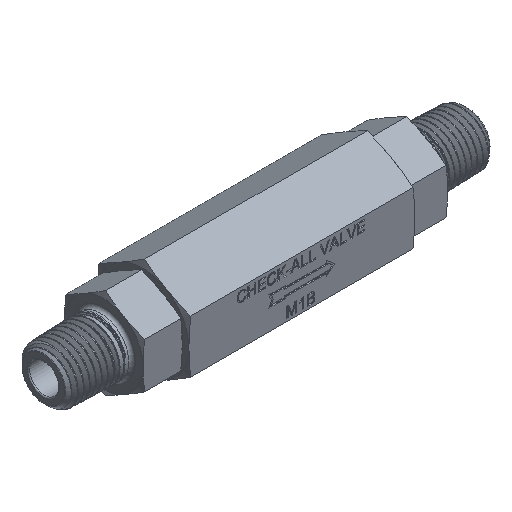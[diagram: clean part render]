
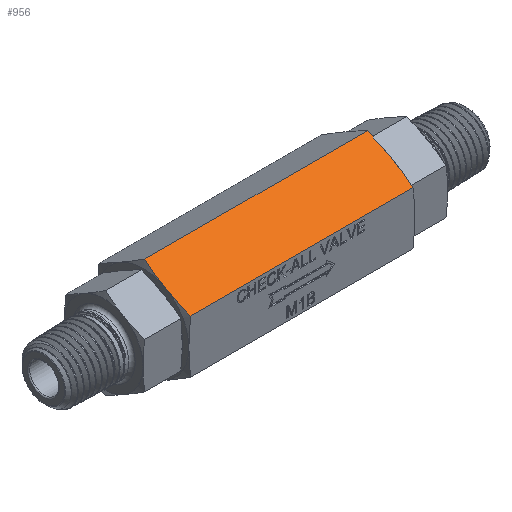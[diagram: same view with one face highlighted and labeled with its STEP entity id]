
A CAD part, isometric view. The second image highlights one B-rep face of the part: STEP entity #956.
In plain terms, the highlighted planar face has unit normal (0, -0.5, 0.866).
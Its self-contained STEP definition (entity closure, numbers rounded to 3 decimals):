
#956 = ADVANCED_FACE( '', ( #2276 ), #2277, .T. );
#2276 = FACE_OUTER_BOUND( '', #17430, .T. );
#2277 = PLANE( '', #17431 );
#17430 = EDGE_LOOP( '', ( #28704, #28705, #28706, #28707, #28708, #28709 ) );
#17431 = AXIS2_PLACEMENT_3D( '', #28710, #28711, #28712 );
#28704 = ORIENTED_EDGE( '', *, *, #31066, .T. );
#28705 = ORIENTED_EDGE( '', *, *, #30620, .T. );
#28706 = ORIENTED_EDGE( '', *, *, #31373, .T. );
#28707 = ORIENTED_EDGE( '', *, *, #31312, .T. );
#28708 = ORIENTED_EDGE( '', *, *, #31374, .F. );
#28709 = ORIENTED_EDGE( '', *, *, #31375, .T. );
#28710 = CARTESIAN_POINT( '', ( 23.801, 0., 12.832 ) );
#28711 = DIRECTION( '', ( 0., -0.5, 0.866 ) );
#28712 = DIRECTION( '', ( 0., -0.866, -0.5 ) );
#30620 = EDGE_CURVE( '', #31993, #31994, #31995, .T. );
#31066 = EDGE_CURVE( '', #32730, #31993, #32733, .T. );
#31312 = EDGE_CURVE( '', #33104, #32930, #33105, .T. );
#31373 = EDGE_CURVE( '', #31994, #33104, #33189, .T. );
#31374 = EDGE_CURVE( '', #33190, #32930, #33191, .T. );
#31375 = EDGE_CURVE( '', #33190, #32730, #33192, .T. );
#31993 = VERTEX_POINT( '', #35074 );
#31994 = VERTEX_POINT( '', #35075 );
#31995 = B_SPLINE_CURVE_WITH_KNOTS( '', 3, ( #35076, #35077, #35078, #35079, #35080, #35081 ), .UNSPECIFIED., .F., .F., ( 4, 2, 4 ), ( 0., 0.003, 0.006 ), .UNSPECIFIED. );
#32730 = VERTEX_POINT( '', #39741 );
#32733 = B_SPLINE_CURVE_WITH_KNOTS( '', 3, ( #39749, #39750, #39751, #39752, #39753, #39754 ), .UNSPECIFIED., .F., .F., ( 4, 2, 4 ), ( 0., 0.003, 0.006 ), .UNSPECIFIED. );
#32930 = VERTEX_POINT( '', #41674 );
#33104 = VERTEX_POINT( '', #42158 );
#33105 = B_SPLINE_CURVE_WITH_KNOTS( '', 3, ( #42159, #42160, #42161, #42162, #42163, #42164 ), .UNSPECIFIED., .F., .F., ( 4, 2, 4 ), ( 0., 0.003, 0.006 ), .UNSPECIFIED. );
#33189 = LINE( '', #42813, #42814 );
#33190 = VERTEX_POINT( '', #42815 );
#33191 = B_SPLINE_CURVE_WITH_KNOTS( '', 3, ( #42816, #42817, #42818, #42819, #42820, #42821 ), .UNSPECIFIED., .F., .F., ( 4, 2, 4 ), ( 0., 0.003, 0.006 ), .UNSPECIFIED. );
#33192 = LINE( '', #42822, #42823 );
#35074 = CARTESIAN_POINT( '', ( 24.13, -5.556, 9.624 ) );
#35075 = CARTESIAN_POINT( '', ( 24.591, -11.113, 6.416 ) );
#35076 = CARTESIAN_POINT( '', ( 24.13, -5.556, 9.624 ) );
#35077 = CARTESIAN_POINT( '', ( 24.13, -6.487, 9.086 ) );
#35078 = CARTESIAN_POINT( '', ( 24.173, -7.415, 8.55 ) );
#35079 = CARTESIAN_POINT( '', ( 24.332, -9.267, 7.481 ) );
#35080 = CARTESIAN_POINT( '', ( 24.448, -10.191, 6.948 ) );
#35081 = CARTESIAN_POINT( '', ( 24.591, -11.113, 6.416 ) );
#39741 = CARTESIAN_POINT( '', ( 24.591, 0., 12.832 ) );
#39749 = CARTESIAN_POINT( '', ( 24.591, 0., 12.832 ) );
#39750 = CARTESIAN_POINT( '', ( 24.448, -0.922, 12.299 ) );
#39751 = CARTESIAN_POINT( '', ( 24.332, -1.846, 11.766 ) );
#39752 = CARTESIAN_POINT( '', ( 24.173, -3.697, 10.697 ) );
#39753 = CARTESIAN_POINT( '', ( 24.13, -4.625, 10.161 ) );
#39754 = CARTESIAN_POINT( '', ( 24.13, -5.556, 9.624 ) );
#41674 = CARTESIAN_POINT( '', ( 78.892, -5.556, 9.624 ) );
#42158 = CARTESIAN_POINT( '', ( 78.432, -11.113, 6.416 ) );
#42159 = CARTESIAN_POINT( '', ( 78.432, -11.113, 6.416 ) );
#42160 = CARTESIAN_POINT( '', ( 78.574, -10.191, 6.948 ) );
#42161 = CARTESIAN_POINT( '', ( 78.691, -9.267, 7.481 ) );
#42162 = CARTESIAN_POINT( '', ( 78.85, -7.415, 8.55 ) );
#42163 = CARTESIAN_POINT( '', ( 78.892, -6.487, 9.086 ) );
#42164 = CARTESIAN_POINT( '', ( 78.892, -5.556, 9.624 ) );
#42813 = CARTESIAN_POINT( '', ( 23.801, -11.113, 6.416 ) );
#42814 = VECTOR( '', #45095, 1000. );
#42815 = CARTESIAN_POINT( '', ( 78.432, 0., 12.832 ) );
#42816 = CARTESIAN_POINT( '', ( 78.432, 0., 12.832 ) );
#42817 = CARTESIAN_POINT( '', ( 78.574, -0.922, 12.299 ) );
#42818 = CARTESIAN_POINT( '', ( 78.691, -1.846, 11.766 ) );
#42819 = CARTESIAN_POINT( '', ( 78.85, -3.697, 10.697 ) );
#42820 = CARTESIAN_POINT( '', ( 78.892, -4.625, 10.161 ) );
#42821 = CARTESIAN_POINT( '', ( 78.892, -5.556, 9.624 ) );
#42822 = CARTESIAN_POINT( '', ( 23.801, 0., 12.832 ) );
#42823 = VECTOR( '', #45096, 1000. );
#45095 = DIRECTION( '', ( 1., 0., 0. ) );
#45096 = DIRECTION( '', ( -1., 0., 0. ) );
